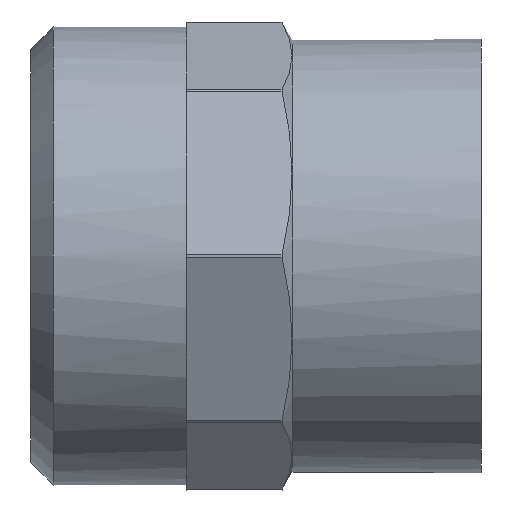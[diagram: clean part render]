
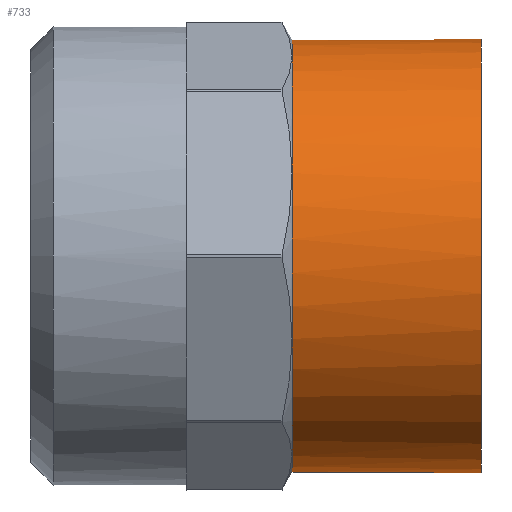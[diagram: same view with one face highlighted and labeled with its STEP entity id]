
A CAD part, front view. The second image highlights one B-rep face of the part: STEP entity #733.
In plain terms, the highlighted cylindrical face has radius 12.5 mm (diameter 25 mm), a full revolution.
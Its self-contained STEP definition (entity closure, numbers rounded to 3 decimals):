
#120=CYLINDRICAL_SURFACE('',#826,12.5);
#153=FACE_BOUND('',#253,.T.);
#201=FACE_OUTER_BOUND('',#252,.T.);
#252=EDGE_LOOP('',(#664));
#253=EDGE_LOOP('',(#665,#666,#667,#668,#669,#670,#671,#672));
#282=CIRCLE('',#780,12.5);
#284=CIRCLE('',#783,12.5);
#286=CIRCLE('',#786,12.5);
#288=CIRCLE('',#789,12.5);
#290=CIRCLE('',#792,12.5);
#292=CIRCLE('',#795,12.5);
#294=CIRCLE('',#798,12.5);
#304=CIRCLE('',#825,12.5);
#305=CIRCLE('',#827,12.5);
#330=VERTEX_POINT('',#1113);
#335=VERTEX_POINT('',#1130);
#340=VERTEX_POINT('',#1147);
#345=VERTEX_POINT('',#1164);
#350=VERTEX_POINT('',#1181);
#355=VERTEX_POINT('',#1198);
#360=VERTEX_POINT('',#1215);
#365=VERTEX_POINT('',#1232);
#368=VERTEX_POINT('',#1302);
#448=EDGE_CURVE('',#360,#365,#282,.T.);
#450=EDGE_CURVE('',#355,#360,#284,.T.);
#452=EDGE_CURVE('',#350,#355,#286,.T.);
#454=EDGE_CURVE('',#345,#350,#288,.T.);
#456=EDGE_CURVE('',#340,#345,#290,.T.);
#458=EDGE_CURVE('',#335,#340,#292,.T.);
#460=EDGE_CURVE('',#330,#335,#294,.T.);
#470=EDGE_CURVE('',#365,#330,#304,.T.);
#471=EDGE_CURVE('',#368,#368,#305,.T.);
#664=ORIENTED_EDGE('',*,*,#471,.F.);
#665=ORIENTED_EDGE('',*,*,#470,.T.);
#666=ORIENTED_EDGE('',*,*,#460,.T.);
#667=ORIENTED_EDGE('',*,*,#458,.T.);
#668=ORIENTED_EDGE('',*,*,#456,.T.);
#669=ORIENTED_EDGE('',*,*,#454,.T.);
#670=ORIENTED_EDGE('',*,*,#452,.T.);
#671=ORIENTED_EDGE('',*,*,#450,.T.);
#672=ORIENTED_EDGE('',*,*,#448,.T.);
#733=ADVANCED_FACE('',(#201,#153),#120,.T.);
#780=AXIS2_PLACEMENT_3D('',#1255,#957,#958);
#783=AXIS2_PLACEMENT_3D('',#1258,#963,#964);
#786=AXIS2_PLACEMENT_3D('',#1261,#969,#970);
#789=AXIS2_PLACEMENT_3D('',#1264,#975,#976);
#792=AXIS2_PLACEMENT_3D('',#1267,#981,#982);
#795=AXIS2_PLACEMENT_3D('',#1270,#987,#988);
#798=AXIS2_PLACEMENT_3D('',#1273,#993,#994);
#825=AXIS2_PLACEMENT_3D('',#1300,#1047,#1048);
#826=AXIS2_PLACEMENT_3D('',#1301,#1049,#1050);
#827=AXIS2_PLACEMENT_3D('',#1303,#1051,#1052);
#957=DIRECTION('center_axis',(1.,0.,0.));
#958=DIRECTION('ref_axis',(0.,1.,0.));
#963=DIRECTION('center_axis',(1.,0.,0.));
#964=DIRECTION('ref_axis',(0.,1.,0.));
#969=DIRECTION('center_axis',(1.,0.,0.));
#970=DIRECTION('ref_axis',(0.,1.,0.));
#975=DIRECTION('center_axis',(1.,0.,0.));
#976=DIRECTION('ref_axis',(0.,1.,0.));
#981=DIRECTION('center_axis',(1.,0.,0.));
#982=DIRECTION('ref_axis',(0.,1.,0.));
#987=DIRECTION('center_axis',(1.,0.,0.));
#988=DIRECTION('ref_axis',(0.,1.,0.));
#993=DIRECTION('center_axis',(1.,0.,0.));
#994=DIRECTION('ref_axis',(0.,1.,0.));
#1047=DIRECTION('center_axis',(1.,0.,0.));
#1048=DIRECTION('ref_axis',(0.,1.,0.));
#1049=DIRECTION('center_axis',(1.,0.,0.));
#1050=DIRECTION('ref_axis',(0.,1.,0.));
#1051=DIRECTION('center_axis',(1.,0.,0.));
#1052=DIRECTION('ref_axis',(0.,1.,0.));
#1113=CARTESIAN_POINT('',(15.077,11.548,4.784));
#1130=CARTESIAN_POINT('',(15.077,4.784,11.548));
#1147=CARTESIAN_POINT('',(15.077,-4.784,11.548));
#1164=CARTESIAN_POINT('',(15.077,-11.548,4.784));
#1181=CARTESIAN_POINT('',(15.077,-11.548,-4.784));
#1198=CARTESIAN_POINT('',(15.077,-4.784,-11.548));
#1215=CARTESIAN_POINT('',(15.077,4.784,-11.548));
#1232=CARTESIAN_POINT('',(15.077,11.548,-4.784));
#1255=CARTESIAN_POINT('Origin',(15.077,0.,0.));
#1258=CARTESIAN_POINT('Origin',(15.077,0.,0.));
#1261=CARTESIAN_POINT('Origin',(15.077,0.,0.));
#1264=CARTESIAN_POINT('Origin',(15.077,0.,0.));
#1267=CARTESIAN_POINT('Origin',(15.077,0.,0.));
#1270=CARTESIAN_POINT('Origin',(15.077,0.,0.));
#1273=CARTESIAN_POINT('Origin',(15.077,0.,0.));
#1300=CARTESIAN_POINT('Origin',(15.077,0.,0.));
#1301=CARTESIAN_POINT('Origin',(20.539,0.,0.));
#1302=CARTESIAN_POINT('',(26.,12.5,0.));
#1303=CARTESIAN_POINT('Origin',(26.,0.,0.));
